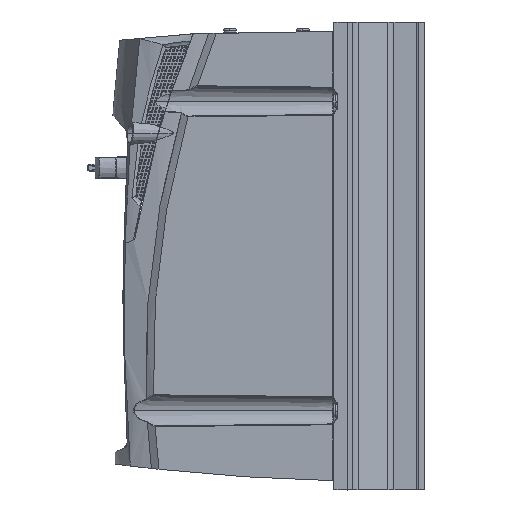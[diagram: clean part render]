
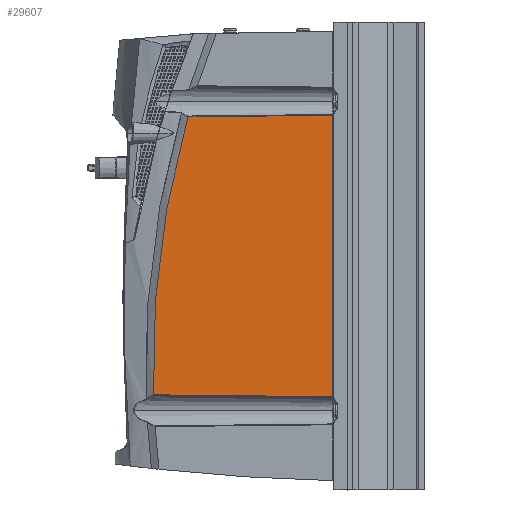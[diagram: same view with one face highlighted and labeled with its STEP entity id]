
A CAD part, left-side view. The second image highlights one B-rep face of the part: STEP entity #29607.
In plain terms, the highlighted planar face has unit normal (-1, 0.018, 0).
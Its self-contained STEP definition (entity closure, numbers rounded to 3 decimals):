
#1456 = CARTESIAN_POINT ( 'NONE',  ( -82.183, 104.038, -76.262 ) ) ;
#9144 = ORIENTED_EDGE ( 'NONE', *, *, #42267, .T. ) ;
#9373 = DIRECTION ( 'NONE',  ( -1., 0.017, 0. ) ) ;
#9983 = CARTESIAN_POINT ( 'NONE',  ( -82.192, 103.514, -28.736 ) ) ;
#10812 = PLANE ( 'NONE',  #47175 ) ;
#12544 = CARTESIAN_POINT ( 'NONE',  ( -83.903, 5.491, 77.289 ) ) ;
#16186 = CARTESIAN_POINT ( 'NONE',  ( -82.834, 66.781, -76.635 ) ) ;
#20407 = EDGE_CURVE ( 'NONE', #99739, #72540, #120515, .T. ) ;
#20773 = CARTESIAN_POINT ( 'NONE',  ( -82.977, 58.582, 76.715 ) ) ;
#20823 = CARTESIAN_POINT ( 'NONE',  ( -82.408, 91.157, 53.895 ) ) ;
#29000 = CARTESIAN_POINT ( 'NONE',  ( -82.513, 85.127, 76.449 ) ) ;
#29360 = B_SPLINE_CURVE_WITH_KNOTS ( 'NONE', 3,
 ( #114595, #71864, #124012, #116010, #16186, #37887, #48701, #92155, #36434, #104439, #47990, #80601, #90735 ),
 .UNSPECIFIED., .F., .F.,
 ( 4, 3, 3, 3, 4 ),
 ( 0., 0.031, 0.05, 0.065, 0.099 ),
 .UNSPECIFIED. ) ;
#29607 = ADVANCED_FACE ( 'NONE', ( #128750 ), #10812, .T. ) ;
#33641 = B_SPLINE_CURVE_WITH_KNOTS ( 'NONE', 3,
 ( #42488, #109779, #20773, #132861 ),
 .UNSPECIFIED., .F., .F.,
 ( 4, 4 ),
 ( 0., 0.08 ),
 .UNSPECIFIED. ) ;
#34741 = CARTESIAN_POINT ( 'NONE',  ( -82.183, 104.04, -76.249 ) ) ;
#34827 = VERTEX_POINT ( 'NONE', #45601 ) ;
#35947 = LINE ( 'NONE', #56249, #59187 ) ;
#36434 = CARTESIAN_POINT ( 'NONE',  ( -83.231, 43.99, -76.872 ) ) ;
#37887 = CARTESIAN_POINT ( 'NONE',  ( -82.941, 60.647, -76.698 ) ) ;
#41490 = CARTESIAN_POINT ( 'NONE',  ( -82.183, 104.041, -76.235 ) ) ;
#41810 = CARTESIAN_POINT ( 'NONE',  ( -82.457, 88.34, 65.229 ) ) ;
#42267 = EDGE_CURVE ( 'NONE', #72540, #34827, #29360, .T. ) ;
#42488 = CARTESIAN_POINT ( 'NONE',  ( -83.903, 5.491, 77.289 ) ) ;
#42782 = VERTEX_POINT ( 'NONE', #29000 ) ;
#43220 = CARTESIAN_POINT ( 'NONE',  ( -82.177, 104.399, -65.19 ) ) ;
#45601 = CARTESIAN_POINT ( 'NONE',  ( -83.903, 5.491, -77.289 ) ) ;
#47175 = AXIS2_PLACEMENT_3D ( 'NONE', #54219, #9373, #64354 ) ;
#47990 = CARTESIAN_POINT ( 'NONE',  ( -83.517, 27.65, -77.046 ) ) ;
#48701 = CARTESIAN_POINT ( 'NONE',  ( -83.048, 54.512, -76.762 ) ) ;
#51898 = CARTESIAN_POINT ( 'NONE',  ( -82.183, 104.042, -76.222 ) ) ;
#54219 = CARTESIAN_POINT ( 'NONE',  ( -84.001, -0.087, -128.5 ) ) ;
#54809 = CARTESIAN_POINT ( 'NONE',  ( -82.273, 98.91, 14.19 ) ) ;
#56249 = CARTESIAN_POINT ( 'NONE',  ( -83.903, 5.491, -128.5 ) ) ;
#59187 = VECTOR ( 'NONE', #133605, 1000. ) ;
#64354 = DIRECTION ( 'NONE',  ( 0.017, 1., 0. ) ) ;
#71864 = CARTESIAN_POINT ( 'NONE',  ( -82.364, 93.664, -76.363 ) ) ;
#72540 = VERTEX_POINT ( 'NONE', #95691 ) ;
#79859 = ORIENTED_EDGE ( 'NONE', *, *, #20407, .T. ) ;
#80601 = CARTESIAN_POINT ( 'NONE',  ( -83.71, 16.571, -77.166 ) ) ;
#82184 = ORIENTED_EDGE ( 'NONE', *, *, #113579, .T. ) ;
#87385 = CARTESIAN_POINT ( 'NONE',  ( -82.183, 104.042, -76.222 ) ) ;
#90735 = CARTESIAN_POINT ( 'NONE',  ( -83.903, 5.491, -77.289 ) ) ;
#91235 = EDGE_CURVE ( 'NONE', #140143, #42782, #33641, .T. ) ;
#92155 = CARTESIAN_POINT ( 'NONE',  ( -83.14, 49.251, -76.817 ) ) ;
#95691 = CARTESIAN_POINT ( 'NONE',  ( -82.183, 104.038, -76.262 ) ) ;
#98252 = CARTESIAN_POINT ( 'NONE',  ( -82.212, 102.394, -14.376 ) ) ;
#99739 = VERTEX_POINT ( 'NONE', #51898 ) ;
#101888 = ORIENTED_EDGE ( 'NONE', *, *, #91235, .T. ) ;
#104439 = CARTESIAN_POINT ( 'NONE',  ( -83.323, 38.73, -76.928 ) ) ;
#105217 = B_SPLINE_CURVE_WITH_KNOTS ( 'NONE', 3,
 ( #128647, #41810, #20823, #109114, #54809, #98252, #9983, #142338, #43220, #87385 ),
 .UNSPECIFIED., .F., .F.,
 ( 4, 2, 2, 2, 4 ),
 ( 0., 0.035, 0.079, 0.122, 0.155 ),
 .UNSPECIFIED. ) ;
#109114 = CARTESIAN_POINT ( 'NONE',  ( -82.314, 96.547, 28.398 ) ) ;
#109779 = CARTESIAN_POINT ( 'NONE',  ( -83.44, 32.036, 76.994 ) ) ;
#113579 = EDGE_CURVE ( 'NONE', #42782, #99739, #105217, .T. ) ;
#113655 = EDGE_CURVE ( 'NONE', #34827, #140143, #35947, .T. ) ;
#114595 = CARTESIAN_POINT ( 'NONE',  ( -82.183, 104.038, -76.262 ) ) ;
#116010 = CARTESIAN_POINT ( 'NONE',  ( -82.726, 72.915, -76.573 ) ) ;
#120515 = B_SPLINE_CURVE_WITH_KNOTS ( 'NONE', 3,
 ( #133123, #41490, #34741, #1456 ),
 .UNSPECIFIED., .F., .F.,
 ( 4, 4 ),
 ( 0., 0. ),
 .UNSPECIFIED. ) ;
#124012 = CARTESIAN_POINT ( 'NONE',  ( -82.545, 83.29, -76.467 ) ) ;
#128647 = CARTESIAN_POINT ( 'NONE',  ( -82.513, 85.127, 76.449 ) ) ;
#128750 = FACE_OUTER_BOUND ( 'NONE', #139111, .T. ) ;
#132861 = CARTESIAN_POINT ( 'NONE',  ( -82.513, 85.127, 76.449 ) ) ;
#133123 = CARTESIAN_POINT ( 'NONE',  ( -82.183, 104.042, -76.222 ) ) ;
#133605 = DIRECTION ( 'NONE',  ( 0., 0., 1. ) ) ;
#138824 = ORIENTED_EDGE ( 'NONE', *, *, #113655, .T. ) ;
#139111 = EDGE_LOOP ( 'NONE', ( #9144, #138824, #101888, #82184, #79859 ) ) ;
#140143 = VERTEX_POINT ( 'NONE', #12544 ) ;
#142338 = CARTESIAN_POINT ( 'NONE',  ( -82.177, 104.388, -54.147 ) ) ;
